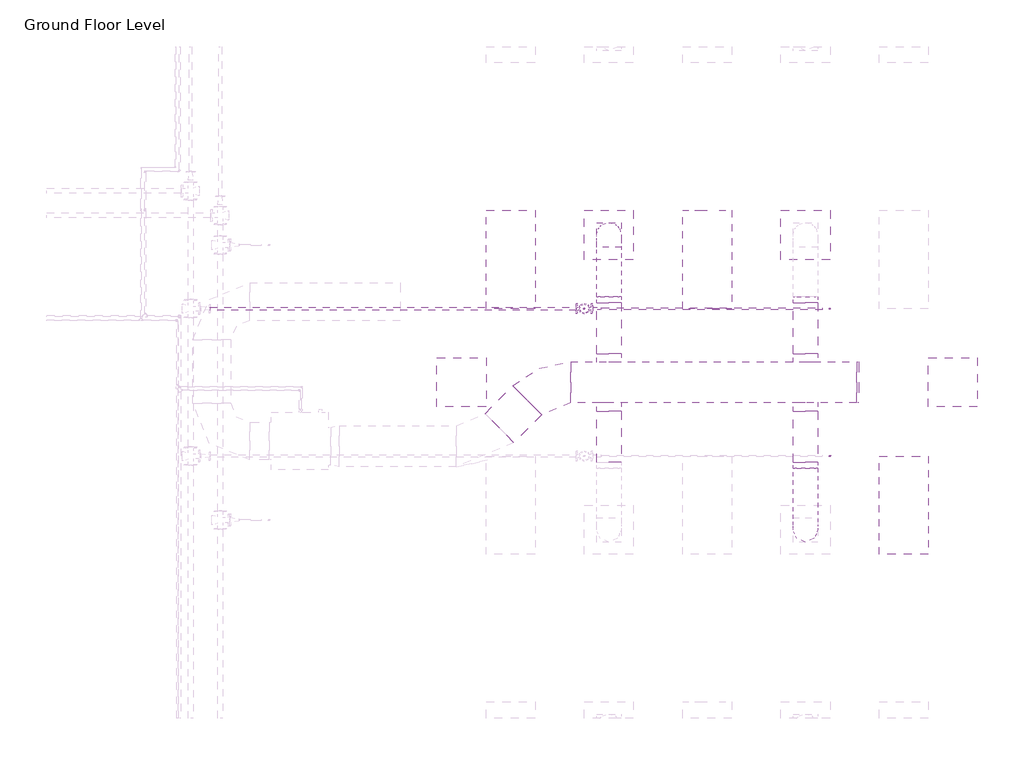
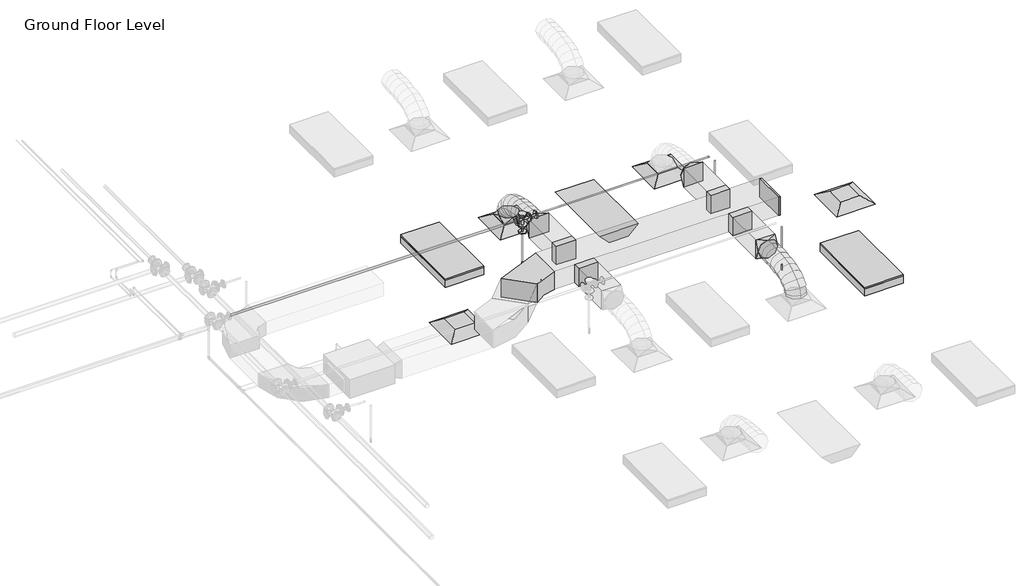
# One storey, part 69 of 73: 10 duct fittings, 8 duct segments, 5 pipe segments, 4 air terminals, 3 fire suppression terminals, 3 light fixtures, 3 pipe fittings.
"""IFC4 building model written with IfcOpenShell, lengths in millimetres."""

from ifc_helpers import new_model, si_unit, point, frame, frame_2d, origin, place, context, project, spatial, polyline, circle_curve, ellipse_curve, trimmed, segment, composite_curve, outline, extrude, transform, mapped, element, save
from ifc_brep_helpers import plane_surface, cylinder_surface, advanced_brep
from components import m_return_diffuser_600_x_600_face_300_x_300_connection_ff221211, m_rectangular_elbow_radius_1_5_w_acc56c25, m_rectangular_endcap_standard_72d4d00d, m_rectangular_takeoff_standard_cb0ccb98, m_rectangular_takeoff_standard_2be5eba1, m_rectangular_to_round_transition_angle_45_degree_641efff0, m_sprinkler_dry_pendent_hosted_15_mm_dry_pendent_9bda8e11, m_emergency_recessed_lighting_fixture_600x1200_277_5b10b25d, m_troffer_light_parabolic_rectangular1_0600x1200mm_4_lamp_86473d4a, m_reducer_flanged_cs_class_150_standard_ccf252ad, m_tee_round_base_flanged_cs_class_150_standard_7e5987a1

model = new_model("IFC4")

# Units and contexts
model_context = context("Model", 3, world=origin())
ifc_project = project(units=[si_unit("LENGTHUNIT", "METRE", prefix="MILLI")], contexts=[model_context])

# Site, building, storey
site = spatial("IfcSite", under=ifc_project)
building = spatial("IfcBuilding", under=site)
storey = spatial("IfcBuildingStorey", under=building, Name="Ground Floor Level", Elevation=900.0)

# Air terminals
placement = place(None, origin())
m_return_diffuser_600_x_600_face_300_x_300_connection_shape = m_return_diffuser_600_x_600_face_300_x_300_connection_ff221211(model_context)
element("IfcAirTerminal", 1, ObjectType="M_Return Diffuser : 600 x 600 Face 300 x 300 Connection", at=placement, inside=storey, context=model_context, shape_type="MappedRepresentation", body=[
    mapped(m_return_diffuser_600_x_600_face_300_x_300_connection_shape, transform((8942.7672395, 12735.2153534, 3650.0), x_axis=(1.0, 0.0, 0.0), y_axis=(0.0, 1.0, 0.0), z_axis=(0.0, 0.0, 1.0))),
])
element("IfcAirTerminal", 2, ObjectType="M_Return Diffuser : 600 x 600 Face 300 x 300 Connection", at=placement, inside=storey, context=model_context, shape_type="MappedRepresentation", body=[
    mapped(m_return_diffuser_600_x_600_face_300_x_300_connection_shape, transform((14942.7672395, 12735.2153534, 3650.0), x_axis=(1.0, 0.0, 0.0), y_axis=(0.0, 1.0, 0.0), z_axis=(0.0, 0.0, 1.0))),
])
element("IfcAirTerminal", 3, ObjectType="M_Supply Diffuser : 600 x 600 Face 300 x 300 Connection", at=placement, inside=storey, context=model_context, shape_type="MappedRepresentation", body=[
    mapped(m_return_diffuser_600_x_600_face_300_x_300_connection_shape, transform((10742.7672395, 14535.2153534, 3650.0), x_axis=(1.0, 0.0, 0.0), y_axis=(0.0, 1.0, 0.0), z_axis=(0.0, 0.0, 1.0))),
])
element("IfcAirTerminal", 4, ObjectType="M_Supply Diffuser : 600 x 600 Face 300 x 300 Connection", at=placement, inside=storey, context=model_context, shape_type="MappedRepresentation", body=[
    mapped(m_return_diffuser_600_x_600_face_300_x_300_connection_shape, transform((13142.7672395, 14535.2153534, 3650.0), x_axis=(1.0, 0.0, 0.0), y_axis=(0.0, 1.0, 0.0), z_axis=(0.0, 0.0, 1.0))),
])

# Duct fittings
m_rectangular_elbow_radius_1_5_w_shape = m_rectangular_elbow_radius_1_5_w_acc56c25(model_context)
element("IfcDuctFitting", 5, ObjectType="M_Rectangular Elbow - Radius : 1.5 W", at=placement, inside=storey, context=model_context, shape_type="MappedRepresentation", body=[
    mapped(m_rectangular_elbow_radius_1_5_w_shape, transform((9966.7301365, 12735.2153534, 4100.0), x_axis=(-1.0, 0.0, 0.0), y_axis=(0.0, -0.9999999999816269, 6.061864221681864e-06), z_axis=(0.0, 6.061864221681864e-06, 0.9999999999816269))),
])
m_rectangular_endcap_standard_shape = m_rectangular_endcap_standard_72d4d00d(model_context)
element("IfcDuctFitting", 6, ObjectType="M_Rectangular Endcap : Standard", at=placement, inside=storey, context=model_context, shape_type="MappedRepresentation", body=[
    mapped(m_rectangular_endcap_standard_shape, transform((13766.7301365, 12735.2153534, 4100.0), x_axis=(1.0, 0.0, 0.0), y_axis=(0.0, 1.0, 0.0), z_axis=(0.0, 0.0, 1.0))),
])
m_rectangular_takeoff_standard_shape = m_rectangular_takeoff_standard_cb0ccb98(model_context)
element("IfcDuctFitting", 7, ObjectType="M_Rectangular Takeoff : Standard", at=placement, inside=storey, context=model_context, shape_type="MappedRepresentation", body=[
    mapped(m_rectangular_takeoff_standard_shape, transform((10742.7672395, 12985.2153534, 4100.0), x_axis=(0.0, 1.0, 0.0), y_axis=(1.0, 0.0, 0.0), z_axis=(0.0, 0.0, -1.0))),
])
element("IfcDuctFitting", 8, ObjectType="M_Rectangular Takeoff : Standard", at=placement, inside=storey, context=model_context, shape_type="MappedRepresentation", body=[
    mapped(m_rectangular_takeoff_standard_shape, transform((13142.7672395, 12985.2153534, 4100.0), x_axis=(0.0, 1.0, 0.0), y_axis=(1.0, 0.0, 0.0), z_axis=(0.0, 0.0, -1.0))),
])
m_rectangular_takeoff_standard_2_shape = m_rectangular_takeoff_standard_2be5eba1(model_context)
element("IfcDuctFitting", 9, ObjectType="M_Rectangular Takeoff : Standard", at=placement, inside=storey, context=model_context, shape_type="MappedRepresentation", body=[
    mapped(m_rectangular_takeoff_standard_2_shape, transform((13142.7672395, 12485.2153534, 4100.0), x_axis=(0.0, -1.0, 0.0), y_axis=(-1.0, 0.0, 0.0), z_axis=(0.0, 0.0, -1.0))),
])
element("IfcDuctFitting", 10, ObjectType="M_Rectangular Takeoff : Standard", at=placement, inside=storey, context=model_context, shape_type="MappedRepresentation", body=[
    mapped(m_rectangular_takeoff_standard_2_shape, transform((10742.7672395, 12485.2153534, 4100.0), x_axis=(0.0, -1.0, 0.0), y_axis=(-1.0, 0.0, 0.0), z_axis=(0.0, 0.0, -1.0))),
])
m_rectangular_to_round_transition_angle_45_degree_shape = m_rectangular_to_round_transition_angle_45_degree_641efff0(model_context)
element("IfcDuctFitting", 11, ObjectType="M_Rectangular to Round Transition - Angle : 45 Degree", at=placement, inside=storey, context=model_context, shape_type="MappedRepresentation", body=[
    mapped(m_rectangular_to_round_transition_angle_45_degree_shape, transform((10742.7672395, 14535.2153534, 3751.6), x_axis=(0.0, 0.0, 1.0), y_axis=(-1.0, 0.0, 0.0), z_axis=(0.0, -1.0, 0.0))),
])
element("IfcDuctFitting", 12, ObjectType="M_Rectangular to Round Transition - Angle : 45 Degree", at=placement, inside=storey, context=model_context, shape_type="MappedRepresentation", body=[
    mapped(m_rectangular_to_round_transition_angle_45_degree_shape, transform((10742.7672395, 13707.8794221, 4100.0), x_axis=(0.0, 1.0, 0.0), y_axis=(-1.0, 0.0, 0.0), z_axis=(0.0, 0.0, 1.0))),
])
element("IfcDuctFitting", 13, ObjectType="M_Rectangular to Round Transition - Angle : 45 Degree", at=placement, inside=storey, context=model_context, shape_type="MappedRepresentation", body=[
    mapped(m_rectangular_to_round_transition_angle_45_degree_shape, transform((13142.7672395, 13707.8794221, 4100.0), x_axis=(0.0, 1.0, 0.0), y_axis=(-1.0, 0.0, 0.0), z_axis=(0.0, 0.0, 1.0))),
])
element("IfcDuctFitting", 14, ObjectType="M_Rectangular to Round Transition - Angle : 45 Degree", at=placement, inside=storey, context=model_context, shape_type="MappedRepresentation", body=[
    mapped(m_rectangular_to_round_transition_angle_45_degree_shape, transform((13142.7672395, 11762.5512847, 4100.0), x_axis=(0.0, -1.0, 0.0), y_axis=(1.0, 0.0, 0.0), z_axis=(0.0, 0.0, 1.0))),
])

# Duct segments
element("IfcDuctSegment", 15, ObjectType="Flex - Round", at=placement, inside=storey, context=model_context, shape_type="AdvancedBrep", body=[
    advanced_brep(
    [(10892.7672395, 14535.2153534, 3826.6), (10742.7672395, 14385.2153534, 3826.6), (10592.7672395, 14535.2153534, 3826.6), (10742.7672395, 14685.2153534, 3826.6), (10892.7672395, 14535.2153534, 3857.9377114), (10742.7672395, 14385.2153534, 3832.2944892), (10592.7672395, 14535.2153534, 3857.9377114), (10742.7672395, 14685.2153534, 3883.5809337), (10892.7672395, 14518.1994208, 3906.2505728), (10742.7672395, 14384.4614419, 3834.435049), (10592.7672395, 14518.1994208, 3906.2505728), (10742.7672395, 14651.9373998, 3978.0660967), (10892.7672395, 14471.0155405, 3968.7113131), (10742.7672395, 14366.8096412, 3857.8020236), (10592.7672395, 14471.0155405, 3968.7113131), (10742.7672395, 14575.2214397, 4079.6206026), (10892.7672395, 14399.4595883, 4016.0700639), (10742.7672395, 14330.5255327, 3881.8163788), (10592.7672395, 14399.4595883, 4016.0700639), (10742.7672395, 14468.3936439, 4150.3237489), (10892.7672395, 14309.3274403, 4050.4146682), (10742.7672395, 14265.7666771, 3906.4925606), (10592.7672395, 14309.3274403, 4050.4146682), (10742.7672395, 14352.8882035, 4194.3367758), (10892.7672395, 14206.4149725, 4073.8329691), (10742.7672395, 14179.8540485, 3926.0424542), (10592.7672395, 14206.4149725, 4073.8329691), (10742.7672395, 14232.9758965, 4221.6234841), (10892.7672395, 14096.5180607, 4088.4128097), (10742.7672395, 14081.3671584, 3939.1085462), (10592.7672395, 14096.5180607, 4088.4128097), (10742.7672395, 14111.6689631, 4237.7170733), (10892.7672395, 13985.4325811, 4096.242033), (10742.7672395, 13977.9272529, 3946.398915), (10592.7672395, 13985.4325811, 4096.242033), (10742.7672395, 13992.9379093, 4246.085151), (10892.7672395, 13878.9544096, 4099.4084821), (10742.7672395, 13876.2629165, 3949.4222102), (10592.7672395, 13878.9544096, 4099.4084821), (10742.7672395, 13881.6459027, 4249.394754), (10892.7672395, 13782.8794221, 4100.0), (10742.7672395, 13783.8029299, 4249.9971571), (10592.7672395, 13782.8794221, 4100.0), (10742.7672395, 13781.9559143, 3950.0028429)],
    [
        (0, 1, circle_curve(frame((10742.7672395, 14535.2153534, 3826.6), z_axis=(0.0, 0.0, -1.0), x_axis=(1.0, 0.0, 0.0)), 150.0)),
        (1, 2, circle_curve(frame((10742.7672395, 14535.2153534, 3826.6), z_axis=(0.0, 0.0, -1.0), x_axis=(1.0, 0.0, 0.0)), 150.0)),
        (2, 3, circle_curve(frame((10742.7672395, 14535.2153534, 3826.6), z_axis=(0.0, 0.0, -1.0), x_axis=(1.0, 0.0, 0.0)), 150.0)),
        (3, 0, circle_curve(frame((10742.7672395, 14535.2153534, 3826.6), z_axis=(0.0, 0.0, -1.0), x_axis=(1.0, 0.0, 0.0)), 150.0)),
        (0, 4),
        (4, 5, ellipse_curve(frame((10742.7672395, 14535.2153534, 3857.9377114), z_axis=(0.0, 0.16851014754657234, -0.9856999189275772), x_axis=(0.0, -0.9856999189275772, -0.1685101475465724)), 152.176131, 150.0)),
        (5, 1),
        (5, 6, ellipse_curve(frame((10742.7672395, 14535.2153534, 3857.9377114), z_axis=(0.0, 0.16851014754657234, -0.9856999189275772), x_axis=(0.0, -0.9856999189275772, -0.1685101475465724)), 152.176131, 150.0)),
        (6, 2),
        (6, 7, ellipse_curve(frame((10742.7672395, 14535.2153534, 3857.9377114), z_axis=(0.0, 0.16851014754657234, -0.9856999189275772), x_axis=(0.0, -0.9856999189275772, -0.1685101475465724)), 152.176131, 150.0)),
        (7, 3),
        (7, 4, ellipse_curve(frame((10742.7672395, 14535.2153534, 3857.9377114), z_axis=(0.0, 0.16851014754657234, -0.9856999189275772), x_axis=(0.0, -0.9856999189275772, -0.1685101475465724)), 152.176131, 150.0)),
        (4, 8),
        (8, 9, ellipse_curve(frame((10742.7672395, 14518.1994208, 3906.2505728), z_axis=(0.0, 0.47309225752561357, -0.8810128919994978), x_axis=(0.0, -0.8810128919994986, -0.47309225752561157)), 151.8002519, 150.0)),
        (9, 5),
        (9, 10, ellipse_curve(frame((10742.7672395, 14518.1994208, 3906.2505728), z_axis=(0.0, 0.47309225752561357, -0.8810128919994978), x_axis=(0.0, -0.8810128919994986, -0.47309225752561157)), 151.8002519, 150.0)),
        (10, 6),
        (10, 11, ellipse_curve(frame((10742.7672395, 14518.1994208, 3906.2505728), z_axis=(0.0, 0.47309225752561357, -0.8810128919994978), x_axis=(0.0, -0.8810128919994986, -0.47309225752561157)), 151.8002519, 150.0)),
        (11, 7),
        (11, 8, ellipse_curve(frame((10742.7672395, 14518.1994208, 3906.2505728), z_axis=(0.0, 0.47309225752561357, -0.8810128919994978), x_axis=(0.0, -0.8810128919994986, -0.47309225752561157)), 151.8002519, 150.0)),
        (8, 12),
        (12, 13, ellipse_curve(frame((10742.7672395, 14471.0155405, 3968.7113131), z_axis=(0.0, 0.7287877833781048, -0.6847396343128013), x_axis=(0.0, -0.6847396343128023, -0.7287877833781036)), 152.1832446, 150.0)),
        (13, 9),
        (13, 14, ellipse_curve(frame((10742.7672395, 14471.0155405, 3968.7113131), z_axis=(0.0, 0.7287877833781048, -0.6847396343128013), x_axis=(0.0, -0.6847396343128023, -0.7287877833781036)), 152.1832446, 150.0)),
        (14, 10),
        (14, 15, ellipse_curve(frame((10742.7672395, 14471.0155405, 3968.7113131), z_axis=(0.0, 0.7287877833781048, -0.6847396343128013), x_axis=(0.0, -0.6847396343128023, -0.7287877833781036)), 152.1832446, 150.0)),
        (15, 11),
        (15, 12, ellipse_curve(frame((10742.7672395, 14471.0155405, 3968.7113131), z_axis=(0.0, 0.7287877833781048, -0.6847396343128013), x_axis=(0.0, -0.6847396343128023, -0.7287877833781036)), 152.1832446, 150.0)),
        (12, 16),
        (16, 17, ellipse_curve(frame((10742.7672395, 14399.4595883, 4016.0700639), z_axis=(0.0, 0.8895859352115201, -0.45676784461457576), x_axis=(0.0, -0.45676784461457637, -0.8895859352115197)), 150.91705, 150.0)),
        (17, 13),
        (17, 18, ellipse_curve(frame((10742.7672395, 14399.4595883, 4016.0700639), z_axis=(0.0, 0.8895859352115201, -0.45676784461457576), x_axis=(0.0, -0.45676784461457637, -0.8895859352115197)), 150.91705, 150.0)),
        (18, 14),
        (18, 19, ellipse_curve(frame((10742.7672395, 14399.4595883, 4016.0700639), z_axis=(0.0, 0.8895859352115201, -0.45676784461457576), x_axis=(0.0, -0.45676784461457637, -0.8895859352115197)), 150.91705, 150.0)),
        (19, 15),
        (19, 16, ellipse_curve(frame((10742.7672395, 14399.4595883, 4016.0700639), z_axis=(0.0, 0.8895859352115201, -0.45676784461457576), x_axis=(0.0, -0.45676784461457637, -0.8895859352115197)), 150.91705, 150.0)),
        (16, 20),
        (20, 21, ellipse_curve(frame((10742.7672395, 14309.3274403, 4050.4146682), z_axis=(0.0, 0.9571203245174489, -0.2896906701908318), x_axis=(0.0, -0.28969067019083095, -0.9571203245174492)), 150.369921, 150.0)),
        (21, 17),
        (21, 22, ellipse_curve(frame((10742.7672395, 14309.3274403, 4050.4146682), z_axis=(0.0, 0.9571203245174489, -0.2896906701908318), x_axis=(0.0, -0.28969067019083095, -0.9571203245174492)), 150.369921, 150.0)),
        (22, 18),
        (22, 23, ellipse_curve(frame((10742.7672395, 14309.3274403, 4050.4146682), z_axis=(0.0, 0.9571203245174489, -0.2896906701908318), x_axis=(0.0, -0.28969067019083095, -0.9571203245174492)), 150.369921, 150.0)),
        (23, 19),
        (23, 20, ellipse_curve(frame((10742.7672395, 14309.3274403, 4050.4146682), z_axis=(0.0, 0.9571203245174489, -0.2896906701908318), x_axis=(0.0, -0.28969067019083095, -0.9571203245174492)), 150.369921, 150.0)),
        (20, 24),
        (24, 25, ellipse_curve(frame((10742.7672395, 14206.4149725, 4073.8329691), z_axis=(0.0, 0.9842313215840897, -0.17688613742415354), x_axis=(0.0, -0.1768861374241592, -0.9842313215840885)), 150.1583131, 150.0)),
        (25, 21),
        (25, 26, ellipse_curve(frame((10742.7672395, 14206.4149725, 4073.8329691), z_axis=(0.0, 0.9842313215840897, -0.17688613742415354), x_axis=(0.0, -0.1768861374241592, -0.9842313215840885)), 150.1583131, 150.0)),
        (26, 22),
        (26, 27, ellipse_curve(frame((10742.7672395, 14206.4149725, 4073.8329691), z_axis=(0.0, 0.9842313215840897, -0.17688613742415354), x_axis=(0.0, -0.1768861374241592, -0.9842313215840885)), 150.1583131, 150.0)),
        (27, 23),
        (27, 24, ellipse_curve(frame((10742.7672395, 14206.4149725, 4073.8329691), z_axis=(0.0, 0.9842313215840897, -0.17688613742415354), x_axis=(0.0, -0.1768861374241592, -0.9842313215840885)), 150.1583131, 150.0)),
        (24, 28),
        (28, 29, ellipse_curve(frame((10742.7672395, 14096.5180607, 4088.4128097), z_axis=(0.0, 0.9948906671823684, -0.10095821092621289), x_axis=(0.0, -0.10095821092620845, -0.9948906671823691)), 150.0710264, 150.0)),
        (29, 25),
        (29, 30, ellipse_curve(frame((10742.7672395, 14096.5180607, 4088.4128097), z_axis=(0.0, 0.9948906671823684, -0.10095821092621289), x_axis=(0.0, -0.10095821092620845, -0.9948906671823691)), 150.0710264, 150.0)),
        (30, 26),
        (30, 31, ellipse_curve(frame((10742.7672395, 14096.5180607, 4088.4128097), z_axis=(0.0, 0.9948906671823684, -0.10095821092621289), x_axis=(0.0, -0.10095821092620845, -0.9948906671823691)), 150.0710264, 150.0)),
        (31, 27),
        (31, 28, ellipse_curve(frame((10742.7672395, 14096.5180607, 4088.4128097), z_axis=(0.0, 0.9948906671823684, -0.10095821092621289), x_axis=(0.0, -0.10095821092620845, -0.9948906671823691)), 150.0710264, 150.0)),
        (28, 32),
        (32, 33, ellipse_curve(frame((10742.7672395, 13985.4325811, 4096.242033), z_axis=(0.0, 0.9987479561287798, -0.050025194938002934), x_axis=(0.0, -0.05002519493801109, -0.9987479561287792)), 150.0309634, 150.0)),
        (33, 29),
        (33, 34, ellipse_curve(frame((10742.7672395, 13985.4325811, 4096.242033), z_axis=(0.0, 0.9987479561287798, -0.050025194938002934), x_axis=(0.0, -0.05002519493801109, -0.9987479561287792)), 150.0309634, 150.0)),
        (34, 30),
        (34, 35, ellipse_curve(frame((10742.7672395, 13985.4325811, 4096.242033), z_axis=(0.0, 0.9987479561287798, -0.050025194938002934), x_axis=(0.0, -0.05002519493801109, -0.9987479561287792)), 150.0309634, 150.0)),
        (35, 31),
        (35, 32, ellipse_curve(frame((10742.7672395, 13985.4325811, 4096.242033), z_axis=(0.0, 0.9987479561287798, -0.050025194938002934), x_axis=(0.0, -0.05002519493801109, -0.9987479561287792)), 150.0309634, 150.0)),
        (32, 36),
        (36, 37, ellipse_curve(frame((10742.7672395, 13878.9544096, 4099.4084821), z_axis=(0.0, 0.9998390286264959, -0.017942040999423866), x_axis=(0.0, -0.017942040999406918, -0.9998390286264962)), 150.0104193, 150.0)),
        (37, 33),
        (37, 38, ellipse_curve(frame((10742.7672395, 13878.9544096, 4099.4084821), z_axis=(0.0, 0.9998390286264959, -0.017942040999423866), x_axis=(0.0, -0.017942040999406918, -0.9998390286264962)), 150.0104193, 150.0)),
        (38, 34),
        (38, 39, ellipse_curve(frame((10742.7672395, 13878.9544096, 4099.4084821), z_axis=(0.0, 0.9998390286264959, -0.017942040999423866), x_axis=(0.0, -0.017942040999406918, -0.9998390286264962)), 150.0104193, 150.0)),
        (39, 35),
        (39, 36, ellipse_curve(frame((10742.7672395, 13878.9544096, 4099.4084821), z_axis=(0.0, 0.9998390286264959, -0.017942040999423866), x_axis=(0.0, -0.017942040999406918, -0.9998390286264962)), 150.0104193, 150.0)),
        (40, 41, circle_curve(frame((10742.7672395, 13782.8794221, 4100.0), z_axis=(0.0, -0.9999810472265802, 0.006156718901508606), x_axis=(1.0, 0.0, 0.0)), 150.0)),
        (41, 42, circle_curve(frame((10742.7672395, 13782.8794221, 4100.0), z_axis=(0.0, -0.9999810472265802, 0.006156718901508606), x_axis=(1.0, 0.0, 0.0)), 150.0)),
        (42, 43, circle_curve(frame((10742.7672395, 13782.8794221, 4100.0), z_axis=(0.0, -0.9999810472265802, 0.006156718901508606), x_axis=(1.0, 0.0, 0.0)), 150.0)),
        (43, 40, circle_curve(frame((10742.7672395, 13782.8794221, 4100.0), z_axis=(0.0, -0.9999810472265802, 0.006156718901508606), x_axis=(1.0, 0.0, 0.0)), 150.0)),
        (36, 40),
        (43, 37),
        (42, 38),
        (41, 39),
    ],
    [
        plane_surface(frame((10742.7672395, 14385.2153534, 3826.6), z_axis=(0.0, 0.0, -1.0), x_axis=(1.0, 0.0, 0.0))),
        cylinder_surface(frame((10742.7672395, 14535.2153534, 3826.6), z_axis=(0.0, 0.0, -1.0), x_axis=(1.0, 0.0, 0.0)), 150.0),
        cylinder_surface(frame((10742.7672395, 14535.2153534, 3857.9377114), z_axis=(0.0, 0.3322008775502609, -0.9432086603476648), x_axis=(1.0, 0.0, 0.0)), 150.0),
        cylinder_surface(frame((10742.7672395, 14518.1994208, 3906.2505728), z_axis=(0.0, 0.6027625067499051, -0.7979206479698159), x_axis=(1.0, 0.0, 0.0)), 150.0),
        cylinder_surface(frame((10742.7672395, 14471.0155405, 3968.7113131), z_axis=(0.0, 0.833902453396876, -0.5519118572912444), x_axis=(1.0, 0.0, 0.0)), 150.0),
        cylinder_surface(frame((10742.7672395, 14399.4595883, 4016.0700639), z_axis=(0.0, 0.9344582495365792, -0.35607271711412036), x_axis=(1.0, 0.0, 0.0)), 150.0),
        cylinder_surface(frame((10742.7672395, 14309.3274403, 4050.4146682), z_axis=(0.0, 0.9750732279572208, -0.22188330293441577), x_axis=(1.0, 0.0, 0.0)), 150.0),
        cylinder_surface(frame((10742.7672395, 14206.4149725, 4073.8329691), z_axis=(0.0, 0.9913140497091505, -0.131515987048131), x_axis=(1.0, 0.0, 0.0)), 150.0),
        cylinder_surface(frame((10742.7672395, 14096.5180607, 4088.4128097), z_axis=(0.0, 0.9975255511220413, -0.07030487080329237), x_axis=(1.0, 0.0, 0.0)), 150.0),
        cylinder_surface(frame((10742.7672395, 13985.4325811, 4096.242033), z_axis=(0.0, 0.9995581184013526, -0.029724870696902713), x_axis=(1.0, 0.0, 0.0)), 150.0),
        plane_surface(frame((10742.7672395, 13781.9559143, 3950.0028429), z_axis=(0.0, -0.9999810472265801, 0.0061567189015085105), x_axis=(1.0, 0.0, 0.0))),
        cylinder_surface(frame((10742.7672395, 13878.9544096, 4099.4084821), z_axis=(0.0, 0.9999810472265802, -0.006156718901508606), x_axis=(1.0, 0.0, 0.0)), 150.0),
    ],
    [
        (0, [[1, 2, 3, 4]]),
        (1, [[-1, 5, 6, 7]]),
        (1, [[-2, -7, 8, 9]]),
        (1, [[-3, -9, 10, 11]]),
        (1, [[-4, -11, 12, -5]]),
        (2, [[-6, 13, 14, 15]]),
        (2, [[-8, -15, 16, 17]]),
        (2, [[-10, -17, 18, 19]]),
        (2, [[-12, -19, 20, -13]]),
        (3, [[-14, 21, 22, 23]]),
        (3, [[-16, -23, 24, 25]]),
        (3, [[-18, -25, 26, 27]]),
        (3, [[-20, -27, 28, -21]]),
        (4, [[-22, 29, 30, 31]]),
        (4, [[-24, -31, 32, 33]]),
        (4, [[-26, -33, 34, 35]]),
        (4, [[-28, -35, 36, -29]]),
        (5, [[-30, 37, 38, 39]]),
        (5, [[-32, -39, 40, 41]]),
        (5, [[-34, -41, 42, 43]]),
        (5, [[-36, -43, 44, -37]]),
        (6, [[-38, 45, 46, 47]]),
        (6, [[-40, -47, 48, 49]]),
        (6, [[-42, -49, 50, 51]]),
        (6, [[-44, -51, 52, -45]]),
        (7, [[-46, 53, 54, 55]]),
        (7, [[-48, -55, 56, 57]]),
        (7, [[-50, -57, 58, 59]]),
        (7, [[-52, -59, 60, -53]]),
        (8, [[-54, 61, 62, 63]]),
        (8, [[-56, -63, 64, 65]]),
        (8, [[-58, -65, 66, 67]]),
        (8, [[-60, -67, 68, -61]]),
        (9, [[-62, 69, 70, 71]]),
        (9, [[-64, -71, 72, 73]]),
        (9, [[-66, -73, 74, 75]]),
        (9, [[-68, -75, 76, -69]]),
        (10, [[77, 78, 79, 80]]),
        (11, [[-70, 81, -80, 82]]),
        (11, [[-72, -82, -79, 83]]),
        (11, [[-74, -83, -78, 84]]),
        (11, [[-76, -84, -77, -81]]),
    ],
),
])
element("IfcDuctSegment", 16, ObjectType="Flex - Round", at=placement, inside=storey, context=model_context, shape_type="AdvancedBrep", body=[
    advanced_brep(
    [(13292.7672395, 10935.2153534, 3826.6), (13142.7672395, 10785.2153534, 3826.6), (12992.7672395, 10935.2153534, 3826.6), (13142.7672395, 11085.2153534, 3826.6), (13292.7672395, 10935.2153534, 3857.9377114), (13142.7672395, 10785.2153534, 3883.5809337), (12992.7672395, 10935.2153534, 3857.9377114), (13142.7672395, 11085.2153534, 3832.2944892), (13292.7672395, 10952.2312859, 3906.2505728), (13142.7672395, 10818.493307, 3978.0660967), (12992.7672395, 10952.2312859, 3906.2505728), (13142.7672395, 11085.9692649, 3834.435049), (13292.7672395, 10999.4151663, 3968.7113131), (13142.7672395, 10895.209267, 4079.6206026), (12992.7672395, 10999.4151663, 3968.7113131), (13142.7672395, 11103.6210655, 3857.8020236), (13292.7672395, 11070.9711184, 4016.0700639), (13142.7672395, 11002.0370628, 4150.3237489), (12992.7672395, 11070.9711184, 4016.0700639), (13142.7672395, 11139.9051741, 3881.8163788), (13292.7672395, 11161.1032664, 4050.4146682), (13142.7672395, 11117.5425033, 4194.3367758), (12992.7672395, 11161.1032664, 4050.4146682), (13142.7672395, 11204.6640296, 3906.4925606), (13292.7672395, 11264.0157343, 4073.8329691), (13142.7672395, 11237.4548103, 4221.6234841), (12992.7672395, 11264.0157343, 4073.8329691), (13142.7672395, 11290.5766583, 3926.0424542), (13292.7672395, 11373.912646, 4088.4128097), (13142.7672395, 11358.7617437, 4237.7170733), (12992.7672395, 11373.912646, 4088.4128097), (13142.7672395, 11389.0635483, 3939.1085462), (13292.7672395, 11484.9981256, 4096.242033), (13142.7672395, 11477.4927975, 4246.085151), (12992.7672395, 11484.9981256, 4096.242033), (13142.7672395, 11492.5034538, 3946.398915), (13292.7672395, 11591.4762972, 4099.4084821), (13142.7672395, 11588.7848041, 4249.394754), (12992.7672395, 11591.4762972, 4099.4084821), (13142.7672395, 11594.1677903, 3949.4222102), (13292.7672395, 11687.5512847, 4100.0), (13142.7672395, 11688.4747925, 3950.0028429), (12992.7672395, 11687.5512847, 4100.0), (13142.7672395, 11686.6277768, 4249.9971571)],
    [
        (0, 1, circle_curve(frame((13142.7672395, 10935.2153534, 3826.6), z_axis=(0.0, 0.0, -1.0), x_axis=(1.0, 0.0, 0.0)), 150.0)),
        (1, 2, circle_curve(frame((13142.7672395, 10935.2153534, 3826.6), z_axis=(0.0, 0.0, -1.0), x_axis=(1.0, 0.0, 0.0)), 150.0)),
        (2, 3, circle_curve(frame((13142.7672395, 10935.2153534, 3826.6), z_axis=(0.0, 0.0, -1.0), x_axis=(1.0, 0.0, 0.0)), 150.0)),
        (3, 0, circle_curve(frame((13142.7672395, 10935.2153534, 3826.6), z_axis=(0.0, 0.0, -1.0), x_axis=(1.0, 0.0, 0.0)), 150.0)),
        (0, 4),
        (4, 5, ellipse_curve(frame((13142.7672395, 10935.2153534, 3857.9377114), z_axis=(0.0, -0.16851014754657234, -0.9856999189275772), x_axis=(0.0, 0.9856999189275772, -0.1685101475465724)), 152.176131, 150.0)),
        (5, 1),
        (5, 6, ellipse_curve(frame((13142.7672395, 10935.2153534, 3857.9377114), z_axis=(0.0, -0.16851014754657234, -0.9856999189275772), x_axis=(0.0, 0.9856999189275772, -0.1685101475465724)), 152.176131, 150.0)),
        (6, 2),
        (6, 7, ellipse_curve(frame((13142.7672395, 10935.2153534, 3857.9377114), z_axis=(0.0, -0.16851014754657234, -0.9856999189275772), x_axis=(0.0, 0.9856999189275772, -0.1685101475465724)), 152.176131, 150.0)),
        (7, 3),
        (7, 4, ellipse_curve(frame((13142.7672395, 10935.2153534, 3857.9377114), z_axis=(0.0, -0.16851014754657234, -0.9856999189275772), x_axis=(0.0, 0.9856999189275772, -0.1685101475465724)), 152.176131, 150.0)),
        (4, 8),
        (8, 9, ellipse_curve(frame((13142.7672395, 10952.2312859, 3906.2505728), z_axis=(0.0, -0.47309225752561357, -0.8810128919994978), x_axis=(0.0, 0.8810128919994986, -0.47309225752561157)), 151.8002519, 150.0)),
        (9, 5),
        (9, 10, ellipse_curve(frame((13142.7672395, 10952.2312859, 3906.2505728), z_axis=(0.0, -0.47309225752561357, -0.8810128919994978), x_axis=(0.0, 0.8810128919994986, -0.47309225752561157)), 151.8002519, 150.0)),
        (10, 6),
        (10, 11, ellipse_curve(frame((13142.7672395, 10952.2312859, 3906.2505728), z_axis=(0.0, -0.47309225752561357, -0.8810128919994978), x_axis=(0.0, 0.8810128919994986, -0.47309225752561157)), 151.8002519, 150.0)),
        (11, 7),
        (11, 8, ellipse_curve(frame((13142.7672395, 10952.2312859, 3906.2505728), z_axis=(0.0, -0.47309225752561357, -0.8810128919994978), x_axis=(0.0, 0.8810128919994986, -0.47309225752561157)), 151.8002519, 150.0)),
        (8, 12),
        (12, 13, ellipse_curve(frame((13142.7672395, 10999.4151663, 3968.7113131), z_axis=(0.0, -0.7287877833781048, -0.6847396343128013), x_axis=(0.0, 0.6847396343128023, -0.7287877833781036)), 152.1832446, 150.0)),
        (13, 9),
        (13, 14, ellipse_curve(frame((13142.7672395, 10999.4151663, 3968.7113131), z_axis=(0.0, -0.7287877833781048, -0.6847396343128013), x_axis=(0.0, 0.6847396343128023, -0.7287877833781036)), 152.1832446, 150.0)),
        (14, 10),
        (14, 15, ellipse_curve(frame((13142.7672395, 10999.4151663, 3968.7113131), z_axis=(0.0, -0.7287877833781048, -0.6847396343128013), x_axis=(0.0, 0.6847396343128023, -0.7287877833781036)), 152.1832446, 150.0)),
        (15, 11),
        (15, 12, ellipse_curve(frame((13142.7672395, 10999.4151663, 3968.7113131), z_axis=(0.0, -0.7287877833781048, -0.6847396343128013), x_axis=(0.0, 0.6847396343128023, -0.7287877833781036)), 152.1832446, 150.0)),
        (12, 16),
        (16, 17, ellipse_curve(frame((13142.7672395, 11070.9711184, 4016.0700639), z_axis=(0.0, -0.8895859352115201, -0.45676784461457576), x_axis=(0.0, 0.45676784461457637, -0.8895859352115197)), 150.91705, 150.0)),
        (17, 13),
        (17, 18, ellipse_curve(frame((13142.7672395, 11070.9711184, 4016.0700639), z_axis=(0.0, -0.8895859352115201, -0.45676784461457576), x_axis=(0.0, 0.45676784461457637, -0.8895859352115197)), 150.91705, 150.0)),
        (18, 14),
        (18, 19, ellipse_curve(frame((13142.7672395, 11070.9711184, 4016.0700639), z_axis=(0.0, -0.8895859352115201, -0.45676784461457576), x_axis=(0.0, 0.45676784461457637, -0.8895859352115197)), 150.91705, 150.0)),
        (19, 15),
        (19, 16, ellipse_curve(frame((13142.7672395, 11070.9711184, 4016.0700639), z_axis=(0.0, -0.8895859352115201, -0.45676784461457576), x_axis=(0.0, 0.45676784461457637, -0.8895859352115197)), 150.91705, 150.0)),
        (16, 20),
        (20, 21, ellipse_curve(frame((13142.7672395, 11161.1032664, 4050.4146682), z_axis=(0.0, -0.9571203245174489, -0.2896906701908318), x_axis=(0.0, 0.28969067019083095, -0.9571203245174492)), 150.369921, 150.0)),
        (21, 17),
        (21, 22, ellipse_curve(frame((13142.7672395, 11161.1032664, 4050.4146682), z_axis=(0.0, -0.9571203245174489, -0.2896906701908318), x_axis=(0.0, 0.28969067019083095, -0.9571203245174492)), 150.369921, 150.0)),
        (22, 18),
        (22, 23, ellipse_curve(frame((13142.7672395, 11161.1032664, 4050.4146682), z_axis=(0.0, -0.9571203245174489, -0.2896906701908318), x_axis=(0.0, 0.28969067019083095, -0.9571203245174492)), 150.369921, 150.0)),
        (23, 19),
        (23, 20, ellipse_curve(frame((13142.7672395, 11161.1032664, 4050.4146682), z_axis=(0.0, -0.9571203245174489, -0.2896906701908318), x_axis=(0.0, 0.28969067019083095, -0.9571203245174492)), 150.369921, 150.0)),
        (20, 24),
        (24, 25, ellipse_curve(frame((13142.7672395, 11264.0157343, 4073.8329691), z_axis=(0.0, -0.9842313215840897, -0.17688613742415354), x_axis=(0.0, 0.1768861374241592, -0.9842313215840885)), 150.1583131, 150.0)),
        (25, 21),
        (25, 26, ellipse_curve(frame((13142.7672395, 11264.0157343, 4073.8329691), z_axis=(0.0, -0.9842313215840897, -0.17688613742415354), x_axis=(0.0, 0.1768861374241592, -0.9842313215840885)), 150.1583131, 150.0)),
        (26, 22),
        (26, 27, ellipse_curve(frame((13142.7672395, 11264.0157343, 4073.8329691), z_axis=(0.0, -0.9842313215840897, -0.17688613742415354), x_axis=(0.0, 0.1768861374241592, -0.9842313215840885)), 150.1583131, 150.0)),
        (27, 23),
        (27, 24, ellipse_curve(frame((13142.7672395, 11264.0157343, 4073.8329691), z_axis=(0.0, -0.9842313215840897, -0.17688613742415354), x_axis=(0.0, 0.1768861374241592, -0.9842313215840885)), 150.1583131, 150.0)),
        (24, 28),
        (28, 29, ellipse_curve(frame((13142.7672395, 11373.912646, 4088.4128097), z_axis=(0.0, -0.9948906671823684, -0.10095821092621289), x_axis=(0.0, 0.10095821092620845, -0.9948906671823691)), 150.0710264, 150.0)),
        (29, 25),
        (29, 30, ellipse_curve(frame((13142.7672395, 11373.912646, 4088.4128097), z_axis=(0.0, -0.9948906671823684, -0.10095821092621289), x_axis=(0.0, 0.10095821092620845, -0.9948906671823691)), 150.0710264, 150.0)),
        (30, 26),
        (30, 31, ellipse_curve(frame((13142.7672395, 11373.912646, 4088.4128097), z_axis=(0.0, -0.9948906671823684, -0.10095821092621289), x_axis=(0.0, 0.10095821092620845, -0.9948906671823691)), 150.0710264, 150.0)),
        (31, 27),
        (31, 28, ellipse_curve(frame((13142.7672395, 11373.912646, 4088.4128097), z_axis=(0.0, -0.9948906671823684, -0.10095821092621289), x_axis=(0.0, 0.10095821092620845, -0.9948906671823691)), 150.0710264, 150.0)),
        (28, 32),
        (32, 33, ellipse_curve(frame((13142.7672395, 11484.9981256, 4096.242033), z_axis=(0.0, -0.9987479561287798, -0.050025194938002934), x_axis=(0.0, 0.05002519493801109, -0.9987479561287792)), 150.0309634, 150.0)),
        (33, 29),
        (33, 34, ellipse_curve(frame((13142.7672395, 11484.9981256, 4096.242033), z_axis=(0.0, -0.9987479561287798, -0.050025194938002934), x_axis=(0.0, 0.05002519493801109, -0.9987479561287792)), 150.0309634, 150.0)),
        (34, 30),
        (34, 35, ellipse_curve(frame((13142.7672395, 11484.9981256, 4096.242033), z_axis=(0.0, -0.9987479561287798, -0.050025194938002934), x_axis=(0.0, 0.05002519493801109, -0.9987479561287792)), 150.0309634, 150.0)),
        (35, 31),
        (35, 32, ellipse_curve(frame((13142.7672395, 11484.9981256, 4096.242033), z_axis=(0.0, -0.9987479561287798, -0.050025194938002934), x_axis=(0.0, 0.05002519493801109, -0.9987479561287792)), 150.0309634, 150.0)),
        (32, 36),
        (36, 37, ellipse_curve(frame((13142.7672395, 11591.4762972, 4099.4084821), z_axis=(0.0, -0.9998390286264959, -0.017942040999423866), x_axis=(0.0, 0.017942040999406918, -0.9998390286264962)), 150.0104193, 150.0)),
        (37, 33),
        (37, 38, ellipse_curve(frame((13142.7672395, 11591.4762972, 4099.4084821), z_axis=(0.0, -0.9998390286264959, -0.017942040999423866), x_axis=(0.0, 0.017942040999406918, -0.9998390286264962)), 150.0104193, 150.0)),
        (38, 34),
        (38, 39, ellipse_curve(frame((13142.7672395, 11591.4762972, 4099.4084821), z_axis=(0.0, -0.9998390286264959, -0.017942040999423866), x_axis=(0.0, 0.017942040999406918, -0.9998390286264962)), 150.0104193, 150.0)),
        (39, 35),
        (39, 36, ellipse_curve(frame((13142.7672395, 11591.4762972, 4099.4084821), z_axis=(0.0, -0.9998390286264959, -0.017942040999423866), x_axis=(0.0, 0.017942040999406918, -0.9998390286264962)), 150.0104193, 150.0)),
        (40, 41, circle_curve(frame((13142.7672395, 11687.5512847, 4100.0), z_axis=(0.0, 0.9999810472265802, 0.006156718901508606), x_axis=(1.0, 0.0, 0.0)), 150.0)),
        (41, 42, circle_curve(frame((13142.7672395, 11687.5512847, 4100.0), z_axis=(0.0, 0.9999810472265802, 0.006156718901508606), x_axis=(1.0, 0.0, 0.0)), 150.0)),
        (42, 43, circle_curve(frame((13142.7672395, 11687.5512847, 4100.0), z_axis=(0.0, 0.9999810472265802, 0.006156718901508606), x_axis=(1.0, 0.0, 0.0)), 150.0)),
        (43, 40, circle_curve(frame((13142.7672395, 11687.5512847, 4100.0), z_axis=(0.0, 0.9999810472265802, 0.006156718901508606), x_axis=(1.0, 0.0, 0.0)), 150.0)),
        (36, 40),
        (43, 37),
        (42, 38),
        (41, 39),
    ],
    [
        plane_surface(frame((13142.7672395, 10785.2153534, 3826.6), z_axis=(0.0, 0.0, -1.0), x_axis=(1.0, 0.0, 0.0))),
        cylinder_surface(frame((13142.7672395, 10935.2153534, 3826.6), z_axis=(0.0, 0.0, -1.0), x_axis=(1.0, 0.0, 0.0)), 150.0),
        cylinder_surface(frame((13142.7672395, 10935.2153534, 3857.9377114), z_axis=(0.0, -0.3322008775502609, -0.9432086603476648), x_axis=(1.0, 0.0, 0.0)), 150.0),
        cylinder_surface(frame((13142.7672395, 10952.2312859, 3906.2505728), z_axis=(0.0, -0.6027625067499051, -0.7979206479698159), x_axis=(1.0, 0.0, 0.0)), 150.0),
        cylinder_surface(frame((13142.7672395, 10999.4151663, 3968.7113131), z_axis=(0.0, -0.833902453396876, -0.5519118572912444), x_axis=(1.0, 0.0, 0.0)), 150.0),
        cylinder_surface(frame((13142.7672395, 11070.9711184, 4016.0700639), z_axis=(0.0, -0.9344582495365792, -0.35607271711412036), x_axis=(1.0, 0.0, 0.0)), 150.0),
        cylinder_surface(frame((13142.7672395, 11161.1032664, 4050.4146682), z_axis=(0.0, -0.9750732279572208, -0.22188330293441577), x_axis=(1.0, 0.0, 0.0)), 150.0),
        cylinder_surface(frame((13142.7672395, 11264.0157343, 4073.8329691), z_axis=(0.0, -0.9913140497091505, -0.131515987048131), x_axis=(1.0, 0.0, 0.0)), 150.0),
        cylinder_surface(frame((13142.7672395, 11373.912646, 4088.4128097), z_axis=(0.0, -0.9975255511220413, -0.07030487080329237), x_axis=(1.0, 0.0, 0.0)), 150.0),
        cylinder_surface(frame((13142.7672395, 11484.9981256, 4096.242033), z_axis=(0.0, -0.9995581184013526, -0.029724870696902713), x_axis=(1.0, 0.0, 0.0)), 150.0),
        plane_surface(frame((13142.7672395, 11686.6277768, 4249.9971571), z_axis=(0.0, 0.9999810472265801, 0.0061567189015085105), x_axis=(1.0, 0.0, 0.0))),
        cylinder_surface(frame((13142.7672395, 11591.4762972, 4099.4084821), z_axis=(0.0, -0.9999810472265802, -0.006156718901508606), x_axis=(1.0, 0.0, 0.0)), 150.0),
    ],
    [
        (0, [[1, 2, 3, 4]]),
        (1, [[-1, 5, 6, 7]]),
        (1, [[-2, -7, 8, 9]]),
        (1, [[-3, -9, 10, 11]]),
        (1, [[-4, -11, 12, -5]]),
        (2, [[-6, 13, 14, 15]]),
        (2, [[-8, -15, 16, 17]]),
        (2, [[-10, -17, 18, 19]]),
        (2, [[-12, -19, 20, -13]]),
        (3, [[-14, 21, 22, 23]]),
        (3, [[-16, -23, 24, 25]]),
        (3, [[-18, -25, 26, 27]]),
        (3, [[-20, -27, 28, -21]]),
        (4, [[-22, 29, 30, 31]]),
        (4, [[-24, -31, 32, 33]]),
        (4, [[-26, -33, 34, 35]]),
        (4, [[-28, -35, 36, -29]]),
        (5, [[-30, 37, 38, 39]]),
        (5, [[-32, -39, 40, 41]]),
        (5, [[-34, -41, 42, 43]]),
        (5, [[-36, -43, 44, -37]]),
        (6, [[-38, 45, 46, 47]]),
        (6, [[-40, -47, 48, 49]]),
        (6, [[-42, -49, 50, 51]]),
        (6, [[-44, -51, 52, -45]]),
        (7, [[-46, 53, 54, 55]]),
        (7, [[-48, -55, 56, 57]]),
        (7, [[-50, -57, 58, 59]]),
        (7, [[-52, -59, 60, -53]]),
        (8, [[-54, 61, 62, 63]]),
        (8, [[-56, -63, 64, 65]]),
        (8, [[-58, -65, 66, 67]]),
        (8, [[-60, -67, 68, -61]]),
        (9, [[-62, 69, 70, 71]]),
        (9, [[-64, -71, 72, 73]]),
        (9, [[-66, -73, 74, 75]]),
        (9, [[-68, -75, 76, -69]]),
        (10, [[77, 78, 79, 80]]),
        (11, [[-70, 81, -80, 82]]),
        (11, [[-72, -82, -79, 83]]),
        (11, [[-74, -83, -78, 84]]),
        (11, [[-76, -84, -77, -81]]),
    ],
),
])
element("IfcDuctSegment", 17, ObjectType="Radius Elbows / Taps", at=placement, inside=storey, context=model_context, shape_type="SweptSolid", body=[
    extrude(outline(polyline([(9584.1393452, 11999.0711715), (9230.5859546, 12352.6245621), (9570.2835271, 12692.3221346), (9923.8369177, 12338.768744), (9584.1393452, 11999.0711715)])), frame((0.0, 0.0, 3950.0033908), z_axis=(0.0, 0.0, 1.0), x_axis=(1.0, 0.0, 0.0)), (0.0, 0.0, 1.0), 300.0),
])
element("IfcDuctSegment", 18, ObjectType="Radius Elbows / Taps", at=placement, inside=storey, context=model_context, shape_type="SweptSolid", body=[
    extrude(outline(polyline([(10277.3903083, 12485.2153534), (10277.3903083, 12985.2153534), (13766.7301365, 12985.2153534), (13766.7301365, 12485.2153534), (10277.3903083, 12485.2153534)])), frame((0.0, 0.0, 3950.0), z_axis=(0.0, 0.0, 1.0), x_axis=(1.0, 0.0, 0.0)), (0.0, 0.0, 1.0), 300.0),
])
element("IfcDuctSegment", 19, ObjectType="Radius Elbows / Taps", at=placement, inside=storey, context=model_context, shape_type="SweptSolid", body=[
    extrude(outline(polyline([(10892.7672395, 13086.8153534), (10592.7672395, 13086.8153534), (10592.7672395, 13707.8794221), (10892.7672395, 13707.8794221), (10892.7672395, 13086.8153534)])), frame((0.0, 0.0, 3950.0), z_axis=(0.0, 0.0, 1.0), x_axis=(1.0, 0.0, 0.0)), (0.0, 0.0, 1.0), 300.0),
])
element("IfcDuctSegment", 20, ObjectType="Radius Elbows / Taps", at=placement, inside=storey, context=model_context, shape_type="SweptSolid", body=[
    extrude(outline(polyline([(13292.7672395, 13086.8153534), (12992.7672395, 13086.8153534), (12992.7672395, 13707.8794221), (13292.7672395, 13707.8794221), (13292.7672395, 13086.8153534)])), frame((0.0, 0.0, 3950.0), z_axis=(0.0, 0.0, 1.0), x_axis=(1.0, 0.0, 0.0)), (0.0, 0.0, 1.0), 300.0),
])
element("IfcDuctSegment", 21, ObjectType="Radius Elbows / Taps", at=placement, inside=storey, context=model_context, shape_type="SweptSolid", body=[
    extrude(outline(polyline([(12992.7672395, 12383.6153534), (13292.7672395, 12383.6153534), (13292.7672395, 11762.5512847), (12992.7672395, 11762.5512847), (12992.7672395, 12383.6153534)])), frame((0.0, 0.0, 3950.0), z_axis=(0.0, 0.0, 1.0), x_axis=(1.0, 0.0, 0.0)), (0.0, 0.0, 1.0), 300.0),
])
element("IfcDuctSegment", 22, ObjectType="Radius Elbows / Taps", at=placement, inside=storey, context=model_context, shape_type="SweptSolid", body=[
    extrude(outline(polyline([(10592.7672395, 12383.6153534), (10892.7672395, 12383.6153534), (10892.7672395, 11762.5512847), (10592.7672395, 11762.5512847), (10592.7672395, 12383.6153534)])), frame((0.0, 0.0, 3950.0), z_axis=(0.0, 0.0, 1.0), x_axis=(1.0, 0.0, 0.0)), (0.0, 0.0, 1.0), 300.0),
])

# Fire suppression terminals
m_sprinkler_dry_pendent_hosted_15_mm_dry_pendent_shape = m_sprinkler_dry_pendent_hosted_15_mm_dry_pendent_9bda8e11(model_context)
element("IfcFireSuppressionTerminal", 23, ObjectType="M_Sprinkler - Dry - Pendent - Hosted : 15 mm Dry Pendent", at=placement, inside=storey, context=model_context, shape_type="MappedRepresentation", body=[
    mapped(m_sprinkler_dry_pendent_hosted_15_mm_dry_pendent_shape, transform((10442.7672395, 13635.2153534, 3650.0), x_axis=(1.0, 0.0, 0.0), y_axis=(0.0, -1.0, 0.0), z_axis=(0.0, 0.0, -1.0))),
])
element("IfcFireSuppressionTerminal", 24, ObjectType="M_Sprinkler - Dry - Pendent - Hosted : 15 mm Dry Pendent", at=placement, inside=storey, context=model_context, shape_type="MappedRepresentation", body=[
    mapped(m_sprinkler_dry_pendent_hosted_15_mm_dry_pendent_shape, transform((13442.7672395, 13635.2153534, 3650.0), x_axis=(1.0, 0.0, 0.0), y_axis=(0.0, -1.0, 0.0), z_axis=(0.0, 0.0, -1.0))),
])
element("IfcFireSuppressionTerminal", 25, ObjectType="M_Sprinkler - Dry - Pendent - Hosted : 15 mm Dry Pendent", at=placement, inside=storey, context=model_context, shape_type="MappedRepresentation", body=[
    mapped(m_sprinkler_dry_pendent_hosted_15_mm_dry_pendent_shape, transform((13442.7672395, 11835.2153534, 3650.0), x_axis=(1.0, 0.0, 0.0), y_axis=(0.0, -1.0, 0.0), z_axis=(0.0, 0.0, -1.0))),
])

# Light fixtures
m_emergency_recessed_lighting_fixture_600x1200_277_shape = m_emergency_recessed_lighting_fixture_600x1200_277_5b10b25d(model_context)
element("IfcLightFixture", 26, ObjectType="M_Emergency Recessed Lighting Fixture : 600x1200 - 277", at=placement, inside=storey, context=model_context, shape_type="MappedRepresentation", body=[
    mapped(m_emergency_recessed_lighting_fixture_600x1200_277_shape, transform((11642.7672395, 13635.2153534, 3650.0), x_axis=(0.0, 1.0, 0.0), y_axis=(-1.0, 0.0, 0.0), z_axis=(0.0, 0.0, 1.0))),
])
m_troffer_light_parabolic_rectangular1_0600x1200mm_4_lamp_shape = m_troffer_light_parabolic_rectangular1_0600x1200mm_4_lamp_86473d4a(model_context)
element("IfcLightFixture", 27, ObjectType="M_Troffer Light - Parabolic Rectangular1 : 0600x1200mm(4 Lamp) - 277V 2", at=placement, inside=storey, context=model_context, shape_type="MappedRepresentation", body=[
    mapped(m_troffer_light_parabolic_rectangular1_0600x1200mm_4_lamp_shape, transform((9483.3013074, 14253.918855, 3650.0), x_axis=(0.0, 1.0, 0.0), y_axis=(-1.0, 0.0, 0.0), z_axis=(0.0, 0.0, 1.0))),
])
element("IfcLightFixture", 28, ObjectType="M_Troffer Light - Parabolic Rectangular1 : 0600x1200mm(4 Lamp) - 277V 2", at=placement, inside=storey, context=model_context, shape_type="MappedRepresentation", body=[
    mapped(m_troffer_light_parabolic_rectangular1_0600x1200mm_4_lamp_shape, transform((14283.3013074, 11253.918855, 3650.0), x_axis=(0.0, 1.0, 0.0), y_axis=(-1.0, 0.0, 0.0), z_axis=(0.0, 0.0, 1.0))),
])

# Pipe fittings
m_reducer_flanged_cs_class_150_standard_shape = m_reducer_flanged_cs_class_150_standard_ccf252ad(model_context)
element("IfcPipeFitting", 29, ObjectType="M_Reducer - Flanged - CS - Class 150 : Standard", at=placement, inside=storey, context=model_context, shape_type="MappedRepresentation", body=[
    mapped(m_reducer_flanged_cs_class_150_standard_shape, transform((10543.4758332, 13635.2153534, 4360.0), x_axis=(1.0, 0.0, 0.0), y_axis=(0.0, 0.0, 1.0), z_axis=(0.0, -1.0, 0.0))),
])
element("IfcPipeFitting", 30, ObjectType="M_Reducer - Flanged - CS - Class 150 : Standard", at=placement, inside=storey, context=model_context, shape_type="MappedRepresentation", body=[
    mapped(m_reducer_flanged_cs_class_150_standard_shape, transform((10442.7672395, 13635.2153534, 4259.2914062), x_axis=(0.0, 0.0, -1.0), y_axis=(-1.0, 0.0, 0.0), z_axis=(0.0, 1.0, 0.0))),
])
m_tee_round_base_flanged_cs_class_150_standard_shape = m_tee_round_base_flanged_cs_class_150_standard_7e5987a1(model_context)
element("IfcPipeFitting", 31, ObjectType="M_Tee Round Base - Flanged - CS - Class 150 : Standard", at=placement, inside=storey, context=model_context, shape_type="MappedRepresentation", body=[
    mapped(m_tee_round_base_flanged_cs_class_150_standard_shape, transform((10442.7672395, 13635.2153534, 4360.0), x_axis=(1.0, 0.0, 0.0), y_axis=(0.0, 0.0, 1.0), z_axis=(0.0, -1.0, 0.0))),
])

# Pipe segments
element("IfcPipeSegment", 32, ObjectType="Steel flanged", at=placement, inside=storey, context=model_context, shape_type="SweptSolid", body=[
    extrude(outline(composite_curve([segment(trimmed(circle_curve(frame_2d((13442.7672395, 13635.2153534)), 10.668), [point((13432.0992395, 13635.2153534))], [point((13442.7672395, 13645.8833534))], False, "CARTESIAN"), True, "CONTINUOUS"), segment(trimmed(circle_curve(frame_2d((13442.7672395, 13635.2153534)), 10.668), [point((13442.7672395, 13645.8833534))], [point((13453.4352395, 13635.2153534))], False, "CARTESIAN"), True, "CONTINUOUS"), segment(trimmed(circle_curve(frame_2d((13442.7672395, 13635.2153534)), 10.668), [point((13453.4352395, 13635.2153534))], [point((13442.7672395, 13624.5473534))], False, "CARTESIAN"), True, "CONTINUOUS"), segment(trimmed(circle_curve(frame_2d((13442.7672395, 13635.2153534)), 10.668), [point((13442.7672395, 13624.5473534))], [point((13432.0992395, 13635.2153534))], False, "CARTESIAN"), True, "CONTINUOUS")], self_intersect=False)), frame((0.0, 0.0, 3650.0), z_axis=(0.0, 0.0, 1.0), x_axis=(1.0, 0.0, 0.0)), (0.0, 0.0, 1.0), 616.9914062),
])
element("IfcPipeSegment", 33, ObjectType="Steel flanged", at=placement, inside=storey, context=model_context, shape_type="SweptSolid", body=[
    extrude(outline(composite_curve([segment(trimmed(circle_curve(frame_2d((13442.7672395, 11835.2153534)), 10.668), [point((13432.0992395, 11835.2153534))], [point((13442.7672395, 11845.8833534))], False, "CARTESIAN"), True, "CONTINUOUS"), segment(trimmed(circle_curve(frame_2d((13442.7672395, 11835.2153534)), 10.668), [point((13442.7672395, 11845.8833534))], [point((13453.4352395, 11835.2153534))], False, "CARTESIAN"), True, "CONTINUOUS"), segment(trimmed(circle_curve(frame_2d((13442.7672395, 11835.2153534)), 10.668), [point((13453.4352395, 11835.2153534))], [point((13442.7672395, 11824.5473534))], False, "CARTESIAN"), True, "CONTINUOUS"), segment(trimmed(circle_curve(frame_2d((13442.7672395, 11835.2153534)), 10.668), [point((13442.7672395, 11824.5473534))], [point((13432.0992395, 11835.2153534))], False, "CARTESIAN"), True, "CONTINUOUS")], self_intersect=False)), frame((0.0, 0.0, 3650.0), z_axis=(0.0, 0.0, 1.0), x_axis=(1.0, 0.0, 0.0)), (0.0, 0.0, 1.0), 616.9914062),
])
element("IfcPipeSegment", 34, ObjectType="Steel flanged", at=placement, inside=storey, context=model_context, shape_type="SweptSolid", body=[
    extrude(outline(composite_curve([segment(trimmed(circle_curve(frame_2d((10442.7672395, 13635.2153534)), 10.668), [point((10432.0992395, 13635.2153534))], [point((10442.7672395, 13645.8833534))], False, "CARTESIAN"), True, "CONTINUOUS"), segment(trimmed(circle_curve(frame_2d((10442.7672395, 13635.2153534)), 10.668), [point((10442.7672395, 13645.8833534))], [point((10453.4352395, 13635.2153534))], False, "CARTESIAN"), True, "CONTINUOUS"), segment(trimmed(circle_curve(frame_2d((10442.7672395, 13635.2153534)), 10.668), [point((10453.4352395, 13635.2153534))], [point((10442.7672395, 13624.5473534))], False, "CARTESIAN"), True, "CONTINUOUS"), segment(trimmed(circle_curve(frame_2d((10442.7672395, 13635.2153534)), 10.668), [point((10442.7672395, 13624.5473534))], [point((10432.0992395, 13635.2153534))], False, "CARTESIAN"), True, "CONTINUOUS")], self_intersect=False)), frame((0.0, 0.0, 3650.0), z_axis=(0.0, 0.0, 1.0), x_axis=(1.0, 0.0, 0.0)), (0.0, 0.0, 1.0), 495.2914062),
])
element("IfcPipeSegment", 35, ObjectType="Steel flanged", at=placement, inside=storey, context=model_context, shape_type="SweptSolid", body=[
    extrude(outline(composite_curve([segment(trimmed(circle_curve(frame_2d((13635.2153534, 4360.0)), 16.7005), [point((13651.9158534, 4360.0))], [point((13635.2153534, 4343.2995))], False, "CARTESIAN"), True, "CONTINUOUS"), segment(trimmed(circle_curve(frame_2d((13635.2153534, 4360.0)), 16.7005), [point((13635.2153534, 4343.2995))], [point((13618.5148534, 4360.0))], False, "CARTESIAN"), True, "CONTINUOUS"), segment(trimmed(circle_curve(frame_2d((13635.2153534, 4360.0)), 16.7005), [point((13618.5148534, 4360.0))], [point((13635.2153534, 4376.7005))], False, "CARTESIAN"), True, "CONTINUOUS"), segment(trimmed(circle_curve(frame_2d((13635.2153534, 4360.0)), 16.7005), [point((13635.2153534, 4376.7005))], [point((13651.9158534, 4360.0))], False, "CARTESIAN"), True, "CONTINUOUS")], self_intersect=False)), frame((5876.869498, 0.0, 0.0), z_axis=(1.0, 0.0, 0.0), x_axis=(0.0, 1.0, 0.0)), (0.0, 0.0, 1.0), 4465.1891477),
])
element("IfcPipeSegment", 36, ObjectType="Steel flanged", at=placement, inside=storey, context=model_context, shape_type="SweptSolid", body=[
    extrude(outline(composite_curve([segment(trimmed(circle_curve(frame_2d((13635.2153534, 4360.0)), 10.668), [point((13645.8833534, 4360.0))], [point((13635.2153534, 4349.332))], False, "CARTESIAN"), True, "CONTINUOUS"), segment(trimmed(circle_curve(frame_2d((13635.2153534, 4360.0)), 10.668), [point((13635.2153534, 4349.332))], [point((13624.5473534, 4360.0))], False, "CARTESIAN"), True, "CONTINUOUS"), segment(trimmed(circle_curve(frame_2d((13635.2153534, 4360.0)), 10.668), [point((13624.5473534, 4360.0))], [point((13635.2153534, 4370.668))], False, "CARTESIAN"), True, "CONTINUOUS"), segment(trimmed(circle_curve(frame_2d((13635.2153534, 4360.0)), 10.668), [point((13635.2153534, 4370.668))], [point((13645.8833534, 4360.0))], False, "CARTESIAN"), True, "CONTINUOUS")], self_intersect=False)), frame((10657.4758332, 0.0, 0.0), z_axis=(1.0, 0.0, 0.0), x_axis=(0.0, 1.0, 0.0)), (0.0, 0.0, 1.0), 2692.2828125),
])

save(model, "model.ifc")
